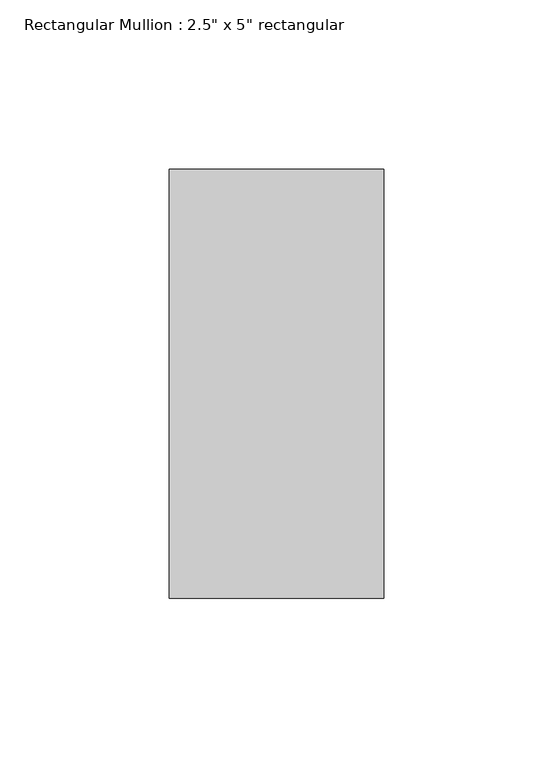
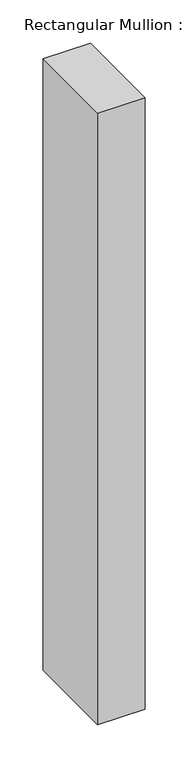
"""IFC4 building model written with IfcOpenShell, lengths in millimetres: member geometry."""

from ifc_helpers import new_model, si_unit, frame, origin, place, context, project, spatial, polyline, outline, extrude, source, transform, mapped, element, save


def member_954a25dd(model_context):
    return source(origin(), model_context, "Body", "SweptSolid", [
        extrude(outline(polyline([(0.0, 63.5), (0.0, -63.5), (-63.5, -63.5), (-63.5, 63.5), (0.0, 63.5)])), frame((0.0, 0.0, -865.9190025), z_axis=(0.0, 0.0, 1.0), x_axis=(1.0, 0.0, 0.0)), (0.0, 0.0, 1.0), 865.9190025),
    ])


if __name__ == "__main__":
    model = new_model("IFC4")
    model_context = context("Model", 3, world=origin())
    ifc_project = project(units=[si_unit("LENGTHUNIT", "METRE", prefix="MILLI")], contexts=[model_context])
    site = spatial("IfcSite", under=ifc_project)
    building = spatial("IfcBuilding", under=site)
    placement = place(None, origin())
    member_shape = member_954a25dd(model_context)
    element("IfcMember", 1, ObjectType="Rectangular Mullion : 2.5\" x 5\" rectangular", at=placement, inside=building, context=model_context, shape_type="MappedRepresentation", body=[
        mapped(member_shape, transform((0.0, 0.0, 0.0), x_axis=(1.0, 0.0, 0.0), y_axis=(0.0, 1.0, 0.0), z_axis=(0.0, 0.0, 1.0))),
    ])
    save(model, "model.ifc")
